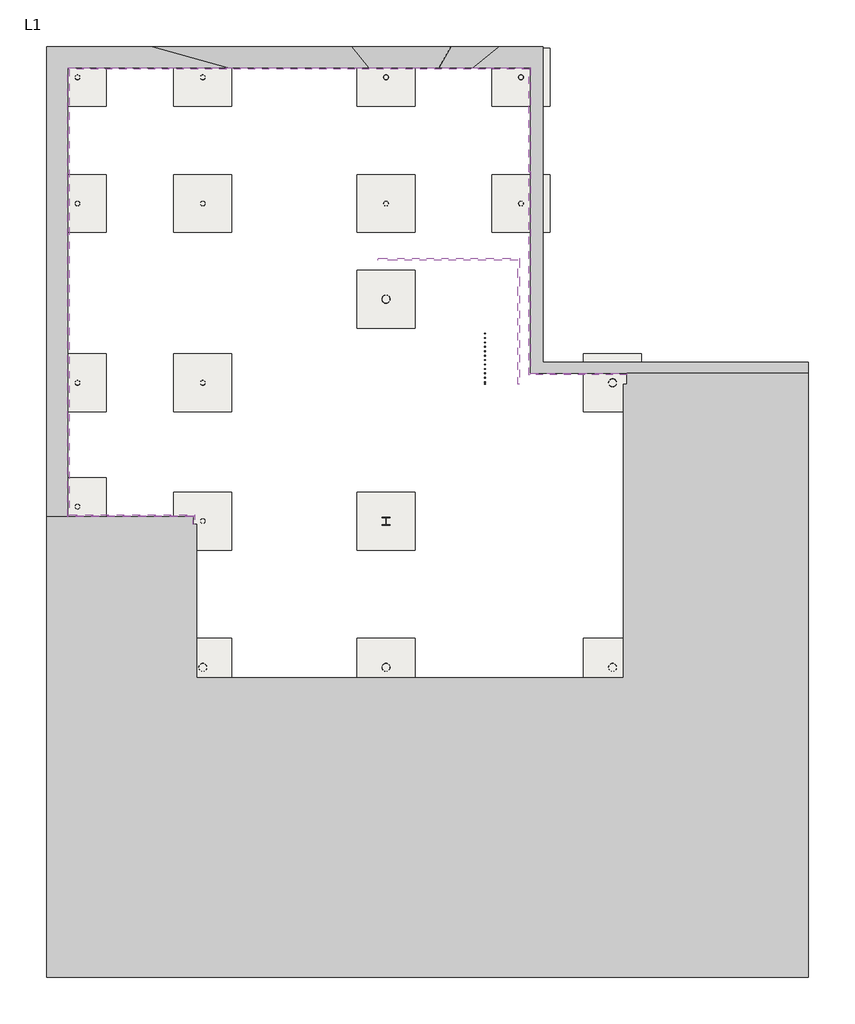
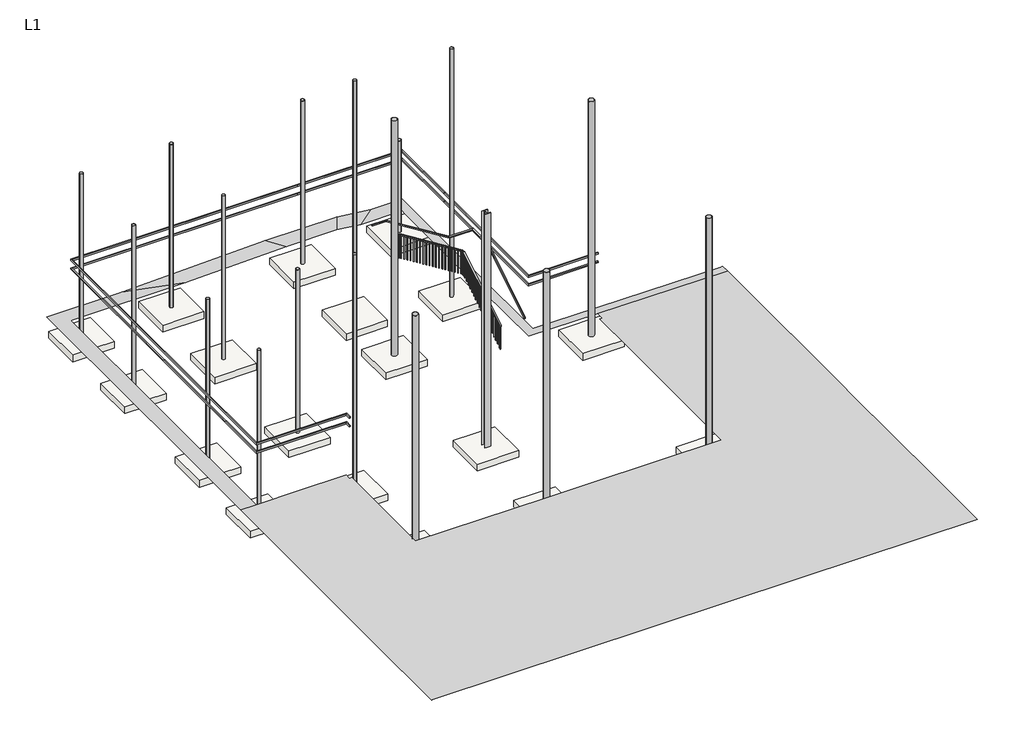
# One storey, incomplete: 18 columns, 18 proxies, 18 slabs, 2 railings.
"""IFC4 building model written with IfcOpenShell, lengths in millimetres."""

from ifc_helpers import new_model, si_unit, frame, origin, place, context, project, spatial, polyline, outline, extrude, triangles, transform, mapped, element, save
from components import hss_round_hollow_structural_section_column_hss10x0_375_e5a783f9, hss_round_hollow_structural_section_column_hss6x0_375_dd265ae1, hss_round_hollow_structural_section_column_hss6x0_375_0e3342be, hss_round_hollow_structural_section_column_hss6x0_375_fb263522, hss_round_hollow_structural_section_column_hss6x0_375_acaf1047, w_wide_flange_column_w10x49_891e5d90, railing_1100mm_f1d3f54a, railing_1100mm_wall_hosted_fa47f578, footing_rectangular_cf6_0_e8c3e57f

model = new_model("IFC4")

# Units and contexts
model_context = context("Model", 3, world=origin())
ifc_project = project(units=[si_unit("LENGTHUNIT", "METRE", prefix="MILLI")], contexts=[model_context])

# Site, building, storey
site = spatial("IfcSite", under=ifc_project)
building = spatial("IfcBuilding", under=site)
storey = spatial("IfcBuildingStorey", under=building, Name="L1", Elevation=45720.0)

# Proxies
placement = place(None, origin())
element("IfcBuildingElementProxy", 1, Name="Building Element Proxy", at=placement, inside=storey, context=model_context, shape_type="Tessellation", body=[
    triangles([(-14938.2288849, -3075.3747826, 45769.6388306), (-14264.2316528, -3075.3747826, 45772.2107666), (-14264.2316528, -1088.5216393, 45778.68479), (-14264.2316528, 2184.8701263, 45787.4563477), (-14264.2316528, 4251.2335327, 45789.9538696), (-14264.2316528, 11107.3499268, 45774.0618164), (-9208.7803482, 11107.3499268, 45770.8015503), (-4742.1724617, 11107.3499268, 45897.1612793), (-2525.7676323, 11107.3499268, 45901.3656738), (-1455.9032845, 11107.3499268, 45774.2338989), (366.1687105, 11107.3499268, 45771.5596436), (366.1687105, 10915.3581573, 45770.8015503), (366.1687105, 8743.3482925, 45756.3838257), (366.1687105, 4976.9898148, 45776.9360596), (366.1687105, 3074.1085808, 45782.2008545), (366.1687105, 1461.1977287, 45780.1312134), (366.1687105, 1450.7640633, 45780.0847046), (377.9066568, 1450.7640633, 45780.070752), (3414.1686378, 1450.7640633, 45768.5226196), (4502.3618088, 1450.7640633, 45764.3833374), (9140.9711151, 1450.7640633, 45739.3616089), (9140.9711151, 1803.1890633, 45738.3849243), (3604.4020844, 1803.1890633, 45768.2528687), (758.9712605, 1803.1890633, 45779.0754639), (758.9712605, 2919.9441536, 45780.5125854), (758.9712605, 5052.8747177, 45774.6059692), (758.9712605, 8665.1617859, 45754.8955444), (758.9712605, 11061.46203, 45770.8015503), (758.9712605, 11773.3104401, 45773.6106812), (-634.5518927, 11773.3104401, 45775.6570679), (-2147.8218063, 11773.3104401, 45955.4833008), (-5282.8159149, 11773.3104401, 45949.5301758), (-11600.6105164, 11773.3104401, 45770.8015503), (-14938.2288849, 11773.3104401, 45772.9549072), (-14938.2288849, 5032.5556091, 45788.5772095), (-14938.2288849, 2511.0714363, 45785.5262329), (-14938.2288849, -1483.2915836, 45774.8292114)], [[37, 1, 2], [35, 36, 5], [37, 3, 36], [4, 36, 3], [7, 33, 6], [5, 36, 4], [3, 37, 2], [5, 6, 35], [33, 34, 6], [7, 32, 33], [6, 34, 35], [8, 9, 31], [31, 32, 8], [31, 9, 10], [10, 30, 31], [8, 32, 7], [17, 18, 16], [16, 24, 15], [24, 16, 18], [18, 19, 24], [20, 21, 22], [20, 23, 19], [23, 20, 22], [19, 23, 24], [13, 14, 27], [30, 10, 11], [12, 13, 27], [11, 12, 28], [14, 15, 26], [25, 26, 15], [29, 11, 28], [12, 27, 28], [14, 26, 27], [15, 24, 25], [11, 29, 30]], closed=False),
])
element("IfcBuildingElementProxy", 2, Name="Building Element Proxy", at=placement, inside=storey, context=model_context, shape_type="Tessellation", body=[
    triangles([(-14938.2288849, -17638.8082306, 45732.6782959), (-14928.8248077, -17638.8082306, 45732.7015503), (1262.9813393, -17638.8082306, 45732.7015503), (9140.9711151, -17638.8082306, 45727.6692993), (9140.9711151, -14295.842514, 45732.7015503), (9140.9711151, -8053.5514435, 45732.7015503), (9140.9711151, -7307.9707901, 45732.7015503), (9140.9711151, -6338.6264694, 45736.7292114), (9140.9711151, -369.7655477, 45744.4031616), (9140.9711151, 1450.7640633, 45739.3616089), (4502.3618088, 1450.7640633, 45764.3833374), (3414.1686378, 1450.7640633, 45768.5226196), (3414.1686378, 1100.7639879, 45768.0714844), (3301.4563316, 1100.7639879, 45768.5040161), (3301.4563316, -1147.9467184, 45765.6111694), (3301.4563316, -8172.8371857, 45736.4176025), (-2489.5785622, -8172.8371857, 45743.6683228), (-4408.8669342, -8172.8371857, 45747.1471802), (-10189.1187653, -8172.8371857, 45752.5747559), (-10189.1187653, -3321.4373795, 45775.8942627), (-10301.8316528, -3321.4373795, 45776.0012329), (-10301.8316528, -3075.3747826, 45777.1825562), (-12435.5397858, -3075.3747826, 45779.187085), (-14264.2316528, -3075.3747826, 45772.2107666), (-14938.2288849, -3075.3747826, 45769.6388306), (-14938.2288849, -10756.0423004, 45744.6124512), (-14938.2288849, -13234.14104, 45732.7015503), (-14938.2288849, -17593.1110199, 45732.7015503), (-2407.4488369, -10787.3020203, 45732.7015503)], [[19, 27, 29], [2, 28, 1], [26, 27, 19], [27, 28, 29], [29, 17, 18], [29, 28, 2], [29, 18, 19], [25, 26, 24], [23, 24, 19], [21, 19, 20], [19, 21, 23], [21, 22, 23], [26, 19, 24], [29, 3, 16], [3, 29, 2], [16, 3, 5], [4, 5, 3], [6, 7, 16], [5, 6, 16], [16, 7, 8], [14, 15, 13], [12, 13, 11], [15, 11, 13], [9, 11, 15], [10, 11, 9], [9, 15, 8], [15, 16, 8], [29, 16, 17]], closed=False),
])
element("IfcBuildingElementProxy", 3, Name="Reveals", at=placement, inside=storey, context=model_context, shape_type="SweptSolid", body=[
    extrude(outline(polyline([(-14213.4313072, -3024.5748862), (-14264.2313072, -3075.3748862), (-14264.2313072, 11107.3501138), (-14213.4313072, 11056.5501138), (-14213.4313072, -3024.5748862)])), frame((0.0, 0.0, 48570.0), z_axis=(0.0, 0.0, 1.0), x_axis=(1.0, 0.0, 0.0)), (0.0, 0.0, 1.0), 63.5),
])
element("IfcBuildingElementProxy", 4, Name="Reveals", at=placement, inside=storey, context=model_context, shape_type="SweptSolid", body=[
    extrude(outline(polyline([(-14213.4313072, 11056.5501138), (-14264.2313072, 11107.3501138), (-4286.5563072, 11107.3501138), (-4286.5563072, 11056.5501138), (-14213.4313072, 11056.5501138)])), frame((0.0, 0.0, 48570.0), z_axis=(0.0, 0.0, 1.0), x_axis=(1.0, 0.0, 0.0)), (0.0, 0.0, 1.0), 63.5),
])
element("IfcBuildingElementProxy", 5, Name="Reveals", at=placement, inside=storey, context=model_context, shape_type="SweptSolid", body=[
    extrude(outline(polyline([(315.3686928, 7819.4001138), (366.1686928, 7819.4001138), (366.1686928, 1450.7640027), (315.3686928, 1399.9640027), (315.3686928, 7819.4001138)])), frame((0.0, 0.0, 48570.0), z_axis=(0.0, 0.0, 1.0), x_axis=(1.0, 0.0, 0.0)), (0.0, 0.0, 1.0), 63.5),
])
element("IfcBuildingElementProxy", 6, Name="Reveals", at=placement, inside=storey, context=model_context, shape_type="SweptSolid", body=[
    extrude(outline(polyline([(315.3686928, 1399.9640027), (366.1686928, 1450.7640027), (3414.1686928, 1450.7640027), (3414.1686928, 1399.9640027), (315.3686928, 1399.9640027)])), frame((0.0, 0.0, 48570.0), z_axis=(0.0, 0.0, 1.0), x_axis=(1.0, 0.0, 0.0)), (0.0, 0.0, 1.0), 63.5),
])
element("IfcBuildingElementProxy", 7, Name="Reveals", at=placement, inside=storey, context=model_context, shape_type="SweptSolid", body=[
    extrude(outline(polyline([(-10251.0313072, -3321.4373862), (-10301.8313072, -3321.4373862), (-10301.8313072, -3075.3748862), (-10251.0313072, -3024.5748862), (-10251.0313072, -3321.4373862)])), frame((0.0, 0.0, 48570.0), z_axis=(0.0, 0.0, 1.0), x_axis=(1.0, 0.0, 0.0)), (0.0, 0.0, 1.0), 63.5),
])
element("IfcBuildingElementProxy", 8, Name="Reveals", at=placement, inside=storey, context=model_context, shape_type="SweptSolid", body=[
    extrude(outline(polyline([(-10251.0313072, -3024.5748862), (-10301.8313072, -3075.3748862), (-14264.2313072, -3075.3748862), (-14213.4313072, -3024.5748862), (-10251.0313072, -3024.5748862)])), frame((0.0, 0.0, 48570.0), z_axis=(0.0, 0.0, 1.0), x_axis=(1.0, 0.0, 0.0)), (0.0, 0.0, 1.0), 63.5),
])
element("IfcBuildingElementProxy", 9, Name="Reveals", at=placement, inside=storey, context=model_context, shape_type="SweptSolid", body=[
    extrude(outline(polyline([(-14213.4313072, -3024.5748862), (-14264.2313072, -3075.3748862), (-14264.2313072, 11107.3501138), (-14213.4313072, 11056.5501138), (-14213.4313072, -3024.5748862)])), frame((0.0, 0.0, 48170.0), z_axis=(0.0, 0.0, 1.0), x_axis=(1.0, 0.0, 0.0)), (0.0, 0.0, 1.0), 63.5),
])
element("IfcBuildingElementProxy", 10, Name="Reveals", at=placement, inside=storey, context=model_context, shape_type="SweptSolid", body=[
    extrude(outline(polyline([(-14213.4313072, 11056.5501138), (-14264.2313072, 11107.3501138), (-4286.5563072, 11107.3501138), (-4286.5563072, 11056.5501138), (-14213.4313072, 11056.5501138)])), frame((0.0, 0.0, 48170.0), z_axis=(0.0, 0.0, 1.0), x_axis=(1.0, 0.0, 0.0)), (0.0, 0.0, 1.0), 63.5),
])
element("IfcBuildingElementProxy", 11, Name="Reveals", at=placement, inside=storey, context=model_context, shape_type="SweptSolid", body=[
    extrude(outline(polyline([(315.3686928, 7819.4001138), (366.1686928, 7819.4001138), (366.1686928, 1450.7640027), (315.3686928, 1399.9640027), (315.3686928, 7819.4001138)])), frame((0.0, 0.0, 48170.0), z_axis=(0.0, 0.0, 1.0), x_axis=(1.0, 0.0, 0.0)), (0.0, 0.0, 1.0), 63.5),
])
element("IfcBuildingElementProxy", 12, Name="Reveals", at=placement, inside=storey, context=model_context, shape_type="SweptSolid", body=[
    extrude(outline(polyline([(315.3686928, 1399.9640027), (366.1686928, 1450.7640027), (3414.1686928, 1450.7640027), (3414.1686928, 1399.9640027), (315.3686928, 1399.9640027)])), frame((0.0, 0.0, 48170.0), z_axis=(0.0, 0.0, 1.0), x_axis=(1.0, 0.0, 0.0)), (0.0, 0.0, 1.0), 63.5),
])
element("IfcBuildingElementProxy", 13, Name="Reveals", at=placement, inside=storey, context=model_context, shape_type="SweptSolid", body=[
    extrude(outline(polyline([(-10251.0313072, -3321.4373862), (-10301.8313072, -3321.4373862), (-10301.8313072, -3075.3748862), (-10251.0313072, -3024.5748862), (-10251.0313072, -3321.4373862)])), frame((0.0, 0.0, 48170.0), z_axis=(0.0, 0.0, 1.0), x_axis=(1.0, 0.0, 0.0)), (0.0, 0.0, 1.0), 63.5),
])
element("IfcBuildingElementProxy", 14, Name="Reveals", at=placement, inside=storey, context=model_context, shape_type="SweptSolid", body=[
    extrude(outline(polyline([(-10251.0313072, -3024.5748862), (-10301.8313072, -3075.3748862), (-14264.2313072, -3075.3748862), (-14213.4313072, -3024.5748862), (-10251.0313072, -3024.5748862)])), frame((0.0, 0.0, 48170.0), z_axis=(0.0, 0.0, 1.0), x_axis=(1.0, 0.0, 0.0)), (0.0, 0.0, 1.0), 63.5),
])
element("IfcBuildingElementProxy", 15, Name="Reveals", at=placement, inside=storey, context=model_context, shape_type="SweptSolid", body=[
    extrude(outline(polyline([(-4286.5563072, 11056.5501138), (-4286.5563072, 11107.3501138), (366.1686928, 11107.3501138), (315.3686928, 11056.5501138), (-4286.5563072, 11056.5501138)])), frame((0.0, 0.0, 48570.0), z_axis=(0.0, 0.0, 1.0), x_axis=(1.0, 0.0, 0.0)), (0.0, 0.0, 1.0), 63.5),
])
element("IfcBuildingElementProxy", 16, Name="Reveals", at=placement, inside=storey, context=model_context, shape_type="SweptSolid", body=[
    extrude(outline(polyline([(315.3686928, 11056.5501138), (366.1686928, 11107.3501138), (366.1686928, 7819.4001138), (315.3686928, 7819.4001138), (315.3686928, 11056.5501138)])), frame((0.0, 0.0, 48570.0), z_axis=(0.0, 0.0, 1.0), x_axis=(1.0, 0.0, 0.0)), (0.0, 0.0, 1.0), 63.5),
])
element("IfcBuildingElementProxy", 17, Name="Reveals", at=placement, inside=storey, context=model_context, shape_type="SweptSolid", body=[
    extrude(outline(polyline([(-4286.5563072, 11056.5501138), (-4286.5563072, 11107.3501138), (366.1686928, 11107.3501138), (315.3686928, 11056.5501138), (-4286.5563072, 11056.5501138)])), frame((0.0, 0.0, 48170.0), z_axis=(0.0, 0.0, 1.0), x_axis=(1.0, 0.0, 0.0)), (0.0, 0.0, 1.0), 63.5),
])
element("IfcBuildingElementProxy", 18, Name="Reveals", at=placement, inside=storey, context=model_context, shape_type="SweptSolid", body=[
    extrude(outline(polyline([(315.3686928, 11056.5501138), (366.1686928, 11107.3501138), (366.1686928, 7819.4001138), (315.3686928, 7819.4001138), (315.3686928, 11056.5501138)])), frame((0.0, 0.0, 48170.0), z_axis=(0.0, 0.0, 1.0), x_axis=(1.0, 0.0, 0.0)), (0.0, 0.0, 1.0), 63.5),
])

# Columns
hss_round_hollow_structural_section_column_hss10x0_375_shape = hss_round_hollow_structural_section_column_hss10x0_375_e5a783f9(model_context)
element("IfcColumn", 19, ObjectType="HSS-Round Hollow Structural Section-Column : HSS10X0.375", at=placement, inside=storey, context=model_context, shape_type="MappedRepresentation", body=[
    mapped(hss_round_hollow_structural_section_column_hss10x0_375_shape, transform((-9997.0313072, -7842.5381675, 0.0), x_axis=(-1.0, 0.0, 0.0), y_axis=(0.0, -1.0, 0.0), z_axis=(0.0, 0.0, 1.0))),
])
element("IfcColumn", 20, ObjectType="HSS-Round Hollow Structural Section-Column : HSS10X0.375", at=placement, inside=storey, context=model_context, shape_type="MappedRepresentation", body=[
    mapped(hss_round_hollow_structural_section_column_hss10x0_375_shape, transform((-4205.8313072, 3790.6992317, 0.0), x_axis=(-1.0, 0.0, 0.0), y_axis=(0.0, -1.0, 0.0), z_axis=(0.0, 0.0, 1.0))),
])
element("IfcColumn", 21, ObjectType="HSS-Round Hollow Structural Section-Column : HSS10X0.375", at=placement, inside=storey, context=model_context, shape_type="MappedRepresentation", body=[
    mapped(hss_round_hollow_structural_section_column_hss10x0_375_shape, transform((-4205.8313072, -7842.5381675, 0.0), x_axis=(-1.0, 0.0, 0.0), y_axis=(0.0, -1.0, 0.0), z_axis=(0.0, 0.0, 1.0))),
])
element("IfcColumn", 22, ObjectType="HSS-Round Hollow Structural Section-Column : HSS10X0.375", at=placement, inside=storey, context=model_context, shape_type="MappedRepresentation", body=[
    mapped(hss_round_hollow_structural_section_column_hss10x0_375_shape, transform((2956.9686928, 1149.0992317, 0.0), x_axis=(-1.0, 0.0, 0.0), y_axis=(0.0, -1.0, 0.0), z_axis=(0.0, 0.0, 1.0))),
])
element("IfcColumn", 23, ObjectType="HSS-Round Hollow Structural Section-Column : HSS10X0.375", at=placement, inside=storey, context=model_context, shape_type="MappedRepresentation", body=[
    mapped(hss_round_hollow_structural_section_column_hss10x0_375_shape, transform((2956.9686928, -7842.5381675, 0.0), x_axis=(-1.0, 0.0, 0.0), y_axis=(0.0, -1.0, 0.0), z_axis=(0.0, 0.0, 1.0))),
])
hss_round_hollow_structural_section_column_hss6x0_375_shape = hss_round_hollow_structural_section_column_hss6x0_375_dd265ae1(model_context)
element("IfcColumn", 24, ObjectType="HSS-Round Hollow Structural Section-Column : HSS6X0.375", at=placement, inside=storey, context=model_context, shape_type="MappedRepresentation", body=[
    mapped(hss_round_hollow_structural_section_column_hss6x0_375_shape, transform((-13959.4313072, 10801.0618325, 0.0), x_axis=(-1.0, 0.0, 0.0), y_axis=(0.0, -1.0, 0.0), z_axis=(0.0, 0.0, 1.0))),
])
element("IfcColumn", 25, ObjectType="HSS-Round Hollow Structural Section-Column : HSS6X0.375", at=placement, inside=storey, context=model_context, shape_type="MappedRepresentation", body=[
    mapped(hss_round_hollow_structural_section_column_hss6x0_375_shape, transform((-13959.4313072, 1149.0992317, 0.0), x_axis=(-1.0, 0.0, 0.0), y_axis=(0.0, -1.0, 0.0), z_axis=(0.0, 0.0, 1.0))),
])
element("IfcColumn", 26, ObjectType="HSS-Round Hollow Structural Section-Column : HSS6X0.375", at=placement, inside=storey, context=model_context, shape_type="MappedRepresentation", body=[
    mapped(hss_round_hollow_structural_section_column_hss6x0_375_shape, transform((-13959.4313072, -2762.5381675, 0.0), x_axis=(-1.0, 0.0, 0.0), y_axis=(0.0, -1.0, 0.0), z_axis=(0.0, 0.0, 1.0))),
])
element("IfcColumn", 27, ObjectType="HSS-Round Hollow Structural Section-Column : HSS6X0.375", at=placement, inside=storey, context=model_context, shape_type="MappedRepresentation", body=[
    mapped(hss_round_hollow_structural_section_column_hss6x0_375_shape, transform((-9997.0313072, 10801.0618325, 0.0), x_axis=(-1.0, 0.0, 0.0), y_axis=(0.0, -1.0, 0.0), z_axis=(0.0, 0.0, 1.0))),
])
element("IfcColumn", 28, ObjectType="HSS-Round Hollow Structural Section-Column : HSS6X0.375", at=placement, inside=storey, context=model_context, shape_type="MappedRepresentation", body=[
    mapped(hss_round_hollow_structural_section_column_hss6x0_375_shape, transform((-9997.0313072, 1149.0992317, 0.0), x_axis=(-1.0, 0.0, 0.0), y_axis=(0.0, -1.0, 0.0), z_axis=(0.0, 0.0, 1.0))),
])
element("IfcColumn", 29, ObjectType="HSS-Round Hollow Structural Section-Column : HSS6X0.375", at=placement, inside=storey, context=model_context, shape_type="MappedRepresentation", body=[
    mapped(hss_round_hollow_structural_section_column_hss6x0_375_shape, transform((-4205.8313072, 10801.0618325, 0.0), x_axis=(-1.0, 0.0, 0.0), y_axis=(0.0, -1.0, 0.0), z_axis=(0.0, 0.0, 1.0))),
])
element("IfcColumn", 30, ObjectType="HSS-Round Hollow Structural Section-Column : HSS6X0.375", at=placement, inside=storey, context=model_context, shape_type="MappedRepresentation", body=[
    mapped(hss_round_hollow_structural_section_column_hss6x0_375_shape, transform((-13959.4313072, 6813.2618325, 0.0), x_axis=(-1.0, 0.0, 0.0), y_axis=(0.0, -1.0, 0.0), z_axis=(0.0, 0.0, 1.0))),
])
element("IfcColumn", 31, ObjectType="HSS-Round Hollow Structural Section-Column : HSS6X0.375", at=placement, inside=storey, context=model_context, shape_type="MappedRepresentation", body=[
    mapped(hss_round_hollow_structural_section_column_hss6x0_375_shape, transform((-9997.0313072, 6813.2618325, 0.0), x_axis=(-1.0, 0.0, 0.0), y_axis=(0.0, -1.0, 0.0), z_axis=(0.0, 0.0, 1.0))),
])
hss_round_hollow_structural_section_column_hss6x0_375_2_shape = hss_round_hollow_structural_section_column_hss6x0_375_0e3342be(model_context)
element("IfcColumn", 32, ObjectType="HSS-Round Hollow Structural Section-Column : HSS6X0.375", at=placement, inside=storey, context=model_context, shape_type="MappedRepresentation", body=[
    mapped(hss_round_hollow_structural_section_column_hss6x0_375_2_shape, transform((61.3686928, 10801.0618325, 0.0), x_axis=(-1.0, 0.0, 0.0), y_axis=(0.0, -1.0, 0.0), z_axis=(0.0, 0.0, 1.0))),
])
hss_round_hollow_structural_section_column_hss6x0_375_3_shape = hss_round_hollow_structural_section_column_hss6x0_375_fb263522(model_context)
element("IfcColumn", 33, ObjectType="HSS-Round Hollow Structural Section-Column : HSS6X0.375", at=placement, inside=storey, context=model_context, shape_type="MappedRepresentation", body=[
    mapped(hss_round_hollow_structural_section_column_hss6x0_375_3_shape, transform((-4205.8313072, 6813.2618325, 0.0), x_axis=(-1.0, 0.0, 0.0), y_axis=(0.0, -1.0, 0.0), z_axis=(0.0, 0.0, 1.0))),
])
element("IfcColumn", 34, ObjectType="HSS-Round Hollow Structural Section-Column : HSS6X0.375", at=placement, inside=storey, context=model_context, shape_type="MappedRepresentation", body=[
    mapped(hss_round_hollow_structural_section_column_hss6x0_375_3_shape, transform((-9997.0313072, -3219.7007683, 0.0), x_axis=(-1.0, 0.0, 0.0), y_axis=(0.0, -1.0, 0.0), z_axis=(0.0, 0.0, 1.0))),
])
hss_round_hollow_structural_section_column_hss6x0_375_4_shape = hss_round_hollow_structural_section_column_hss6x0_375_acaf1047(model_context)
element("IfcColumn", 35, ObjectType="HSS-Round Hollow Structural Section-Column : HSS6X0.375", at=placement, inside=storey, context=model_context, shape_type="MappedRepresentation", body=[
    mapped(hss_round_hollow_structural_section_column_hss6x0_375_4_shape, transform((61.3686928, 6813.2618325, 0.0), x_axis=(-1.0, 0.0, 0.0), y_axis=(0.0, -1.0, 0.0), z_axis=(0.0, 0.0, 1.0))),
])
w_wide_flange_column_w10x49_shape = w_wide_flange_column_w10x49_891e5d90(model_context)
element("IfcColumn", 36, ObjectType="W-Wide Flange-Column : W10X49", at=placement, inside=storey, context=model_context, shape_type="MappedRepresentation", body=[
    mapped(w_wide_flange_column_w10x49_shape, transform((-4205.8313072, -3219.7007683, 0.0), x_axis=(-1.0, 0.0, 0.0), y_axis=(0.0, -1.0, 0.0), z_axis=(0.0, 0.0, 1.0))),
])

# Railings
railing_1100mm_shape = railing_1100mm_f1d3f54a(model_context)
element("IfcRailing", 37, ObjectType="1100mm", at=placement, inside=storey, context=model_context, shape_type="MappedRepresentation", body=[
    mapped(railing_1100mm_shape, transform((0.0, 0.0, 0.0), x_axis=(1.0, 0.0, 0.0), y_axis=(0.0, 1.0, 0.0), z_axis=(0.0, 0.0, 1.0))),
])
railing_1100mm_wall_hosted_shape = railing_1100mm_wall_hosted_fa47f578(model_context)
element("IfcRailing", 38, ObjectType="1100mm Wall Hosted", at=placement, inside=storey, context=model_context, shape_type="MappedRepresentation", body=[
    mapped(railing_1100mm_wall_hosted_shape, transform((0.0, 0.0, 0.0), x_axis=(1.0, 0.0, 0.0), y_axis=(0.0, 1.0, 0.0), z_axis=(0.0, 0.0, 1.0))),
])

# Slabs
footing_rectangular_cf6_0_shape = footing_rectangular_cf6_0_e8c3e57f(model_context)
element("IfcSlab", 39, ObjectType="Footing-Rectangular : CF6.0", at=placement, inside=storey, context=model_context, shape_type="MappedRepresentation", body=[
    mapped(footing_rectangular_cf6_0_shape, transform((-13959.4313072, 10801.0618325, 45110.4), x_axis=(-1.0, 0.0, 0.0), y_axis=(0.0, -1.0, 0.0), z_axis=(0.0, 0.0, 1.0))),
])
element("IfcSlab", 40, ObjectType="Footing-Rectangular : CF6.0", at=placement, inside=storey, context=model_context, shape_type="MappedRepresentation", body=[
    mapped(footing_rectangular_cf6_0_shape, transform((-13959.4313072, 1149.0992317, 45110.4), x_axis=(-1.0, 0.0, 0.0), y_axis=(0.0, -1.0, 0.0), z_axis=(0.0, 0.0, 1.0))),
])
element("IfcSlab", 41, ObjectType="Footing-Rectangular : CF6.0", at=placement, inside=storey, context=model_context, shape_type="MappedRepresentation", body=[
    mapped(footing_rectangular_cf6_0_shape, transform((-13959.4313072, -2762.5381675, 45110.4), x_axis=(-1.0, 0.0, 0.0), y_axis=(0.0, -1.0, 0.0), z_axis=(0.0, 0.0, 1.0))),
])
element("IfcSlab", 42, ObjectType="Footing-Rectangular : CF6.0", at=placement, inside=storey, context=model_context, shape_type="MappedRepresentation", body=[
    mapped(footing_rectangular_cf6_0_shape, transform((-9997.0313072, 10801.0618325, 45110.4), x_axis=(-1.0, 0.0, 0.0), y_axis=(0.0, -1.0, 0.0), z_axis=(0.0, 0.0, 1.0))),
])
element("IfcSlab", 43, ObjectType="Footing-Rectangular : CF6.0", at=placement, inside=storey, context=model_context, shape_type="MappedRepresentation", body=[
    mapped(footing_rectangular_cf6_0_shape, transform((-9997.0313072, 1149.0992317, 45110.4), x_axis=(-1.0, 0.0, 0.0), y_axis=(0.0, -1.0, 0.0), z_axis=(0.0, 0.0, 1.0))),
])
element("IfcSlab", 44, ObjectType="Footing-Rectangular : CF6.0", at=placement, inside=storey, context=model_context, shape_type="MappedRepresentation", body=[
    mapped(footing_rectangular_cf6_0_shape, transform((-9997.0313072, -7842.5381675, 45110.4), x_axis=(-1.0, 0.0, 0.0), y_axis=(0.0, -1.0, 0.0), z_axis=(0.0, 0.0, 1.0))),
])
element("IfcSlab", 45, ObjectType="Footing-Rectangular : CF6.0", at=placement, inside=storey, context=model_context, shape_type="MappedRepresentation", body=[
    mapped(footing_rectangular_cf6_0_shape, transform((-4205.8313072, 10801.0618325, 45110.4), x_axis=(-1.0, 0.0, 0.0), y_axis=(0.0, -1.0, 0.0), z_axis=(0.0, 0.0, 1.0))),
])
element("IfcSlab", 46, ObjectType="Footing-Rectangular : CF6.0", at=placement, inside=storey, context=model_context, shape_type="MappedRepresentation", body=[
    mapped(footing_rectangular_cf6_0_shape, transform((-4205.8313072, 3790.6992317, 45110.4), x_axis=(-1.0, 0.0, 0.0), y_axis=(0.0, -1.0, 0.0), z_axis=(0.0, 0.0, 1.0))),
])
element("IfcSlab", 47, ObjectType="Footing-Rectangular : CF6.0", at=placement, inside=storey, context=model_context, shape_type="MappedRepresentation", body=[
    mapped(footing_rectangular_cf6_0_shape, transform((-4205.8313072, -7842.5381675, 45110.4), x_axis=(-1.0, 0.0, 0.0), y_axis=(0.0, -1.0, 0.0), z_axis=(0.0, 0.0, 1.0))),
])
element("IfcSlab", 48, ObjectType="Footing-Rectangular : CF6.0", at=placement, inside=storey, context=model_context, shape_type="MappedRepresentation", body=[
    mapped(footing_rectangular_cf6_0_shape, transform((61.3686928, 10801.0618325, 45110.4), x_axis=(-1.0, 0.0, 0.0), y_axis=(0.0, -1.0, 0.0), z_axis=(0.0, 0.0, 1.0))),
])
element("IfcSlab", 49, ObjectType="Footing-Rectangular : CF6.0", at=placement, inside=storey, context=model_context, shape_type="MappedRepresentation", body=[
    mapped(footing_rectangular_cf6_0_shape, transform((2956.9686928, 1149.0992317, 45110.4), x_axis=(-1.0, 0.0, 0.0), y_axis=(0.0, -1.0, 0.0), z_axis=(0.0, 0.0, 1.0))),
])
element("IfcSlab", 50, ObjectType="Footing-Rectangular : CF6.0", at=placement, inside=storey, context=model_context, shape_type="MappedRepresentation", body=[
    mapped(footing_rectangular_cf6_0_shape, transform((2956.9686928, -7842.5381675, 45110.4), x_axis=(-1.0, 0.0, 0.0), y_axis=(0.0, -1.0, 0.0), z_axis=(0.0, 0.0, 1.0))),
])
element("IfcSlab", 51, ObjectType="Footing-Rectangular : CF6.0", at=placement, inside=storey, context=model_context, shape_type="MappedRepresentation", body=[
    mapped(footing_rectangular_cf6_0_shape, transform((-13959.4313072, 6813.2618325, 45110.4), x_axis=(-1.0, 0.0, 0.0), y_axis=(0.0, -1.0, 0.0), z_axis=(0.0, 0.0, 1.0))),
])
element("IfcSlab", 52, ObjectType="Footing-Rectangular : CF6.0", at=placement, inside=storey, context=model_context, shape_type="MappedRepresentation", body=[
    mapped(footing_rectangular_cf6_0_shape, transform((-9997.0313072, 6813.2618325, 45110.4), x_axis=(-1.0, 0.0, 0.0), y_axis=(0.0, -1.0, 0.0), z_axis=(0.0, 0.0, 1.0))),
])
element("IfcSlab", 53, ObjectType="Footing-Rectangular : CF6.0", at=placement, inside=storey, context=model_context, shape_type="MappedRepresentation", body=[
    mapped(footing_rectangular_cf6_0_shape, transform((-4205.8313072, 6813.2618325, 45110.4), x_axis=(-1.0, 0.0, 0.0), y_axis=(0.0, -1.0, 0.0), z_axis=(0.0, 0.0, 1.0))),
])
element("IfcSlab", 54, ObjectType="Footing-Rectangular : CF6.0", at=placement, inside=storey, context=model_context, shape_type="MappedRepresentation", body=[
    mapped(footing_rectangular_cf6_0_shape, transform((61.3686928, 6813.2618325, 44500.8), x_axis=(-1.0, 0.0, 0.0), y_axis=(0.0, -1.0, 0.0), z_axis=(0.0, 0.0, 1.0))),
])
element("IfcSlab", 55, ObjectType="Footing-Rectangular : CF6.0", at=placement, inside=storey, context=model_context, shape_type="MappedRepresentation", body=[
    mapped(footing_rectangular_cf6_0_shape, transform((-9997.0313072, -3219.7007683, 45110.4), x_axis=(-1.0, 0.0, 0.0), y_axis=(0.0, -1.0, 0.0), z_axis=(0.0, 0.0, 1.0))),
])
element("IfcSlab", 56, ObjectType="Footing-Rectangular : CF6.0", at=placement, inside=storey, context=model_context, shape_type="MappedRepresentation", body=[
    mapped(footing_rectangular_cf6_0_shape, transform((-4205.8313072, -3219.7007683, 45110.4), x_axis=(-1.0, 0.0, 0.0), y_axis=(0.0, -1.0, 0.0), z_axis=(0.0, 0.0, 1.0))),
])

save(model, "model.ifc")
